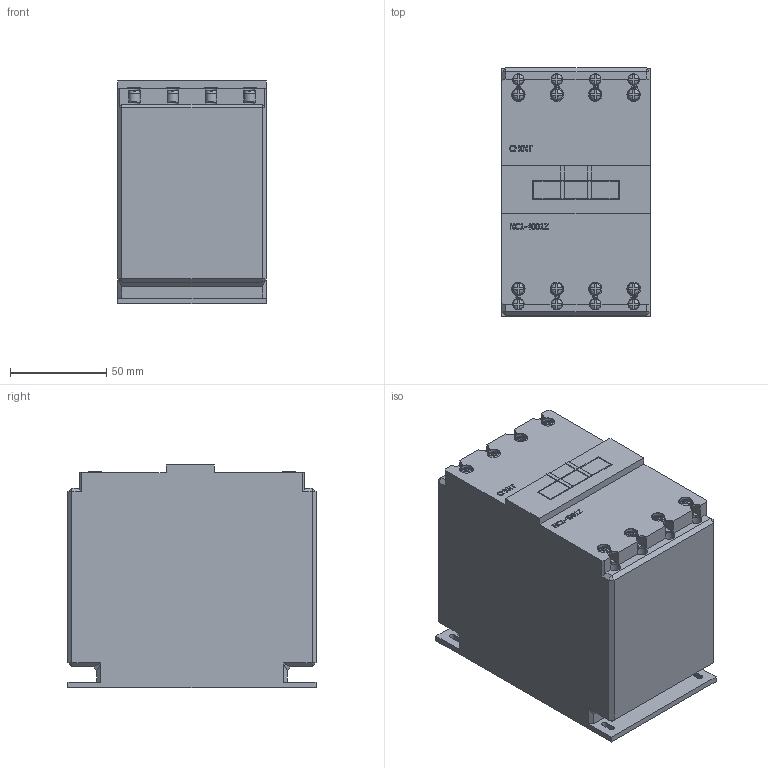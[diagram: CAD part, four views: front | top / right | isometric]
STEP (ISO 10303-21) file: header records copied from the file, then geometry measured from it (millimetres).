
FILE_DESCRIPTION(/* description */ (''),/* implementation_level */ '2;1');
FILE_NAME(/* name */ 'D:\CHINT2\NC1\NC1-4001Z 230В 50.stp',/* time_stamp */ '2017-11-12T20:26:17+03:00',/* author */ ('RSagdiev'),/* organization */ (''),/* preprocessor_version */ 'ST-DEVELOPER v16.5',/* originating_system */ 'Autodesk Inventor 2017',/* authorisation */ '');
FILE_SCHEMA (('AUTOMOTIVE_DESIGN { 1 0 10303 214 3 1 1 }'));
Length unit declared in the file: millimetre
Products named in the file (1): NC1-4001 230В 50
Bounding box: 77 x 129 x 116.5 mm (x, y, z)
Volume: 1088356.3 mm3; surface area: 77052.5 mm2
Topology: 22 solids, 22 shells, 1485 faces, 3994 edges, 2632 vertices
Faces by surface type: plane 1046, bspline 383, cylinder 48, torus 8
Full cylindrical faces by diameter (mm): 5.8 x8, 6 x16
Entity records: 49887 total; most frequent: CARTESIAN_POINT 15234, ORIENTED_EDGE 7910, DIRECTION 5647, EDGE_CURVE 3955, LINE 2735, VECTOR 2735, VERTEX_POINT 2625, EDGE_LOOP 1620
